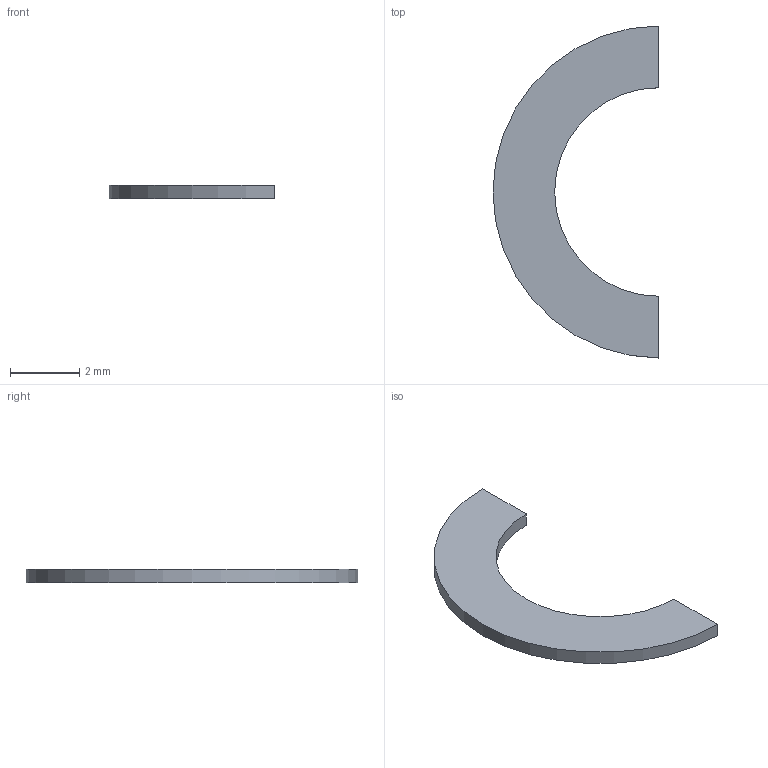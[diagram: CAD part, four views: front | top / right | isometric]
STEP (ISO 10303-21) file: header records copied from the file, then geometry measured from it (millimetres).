
FILE_DESCRIPTION(('Open CASCADE Model'),'2;1');
FILE_NAME('Open CASCADE Shape Model','2026-09-24T17:43:00',('Author'),( 'Open CASCADE'),'Open CASCADE STEP processor 7.8','Open CASCADE 7.8' ,'Unknown');
FILE_SCHEMA(('AUTOMOTIVE_DESIGN { 1 0 10303 214 1 1 1 1 }'));
Length unit declared in the file: millimetre
Products named in the file (1): Open CASCADE STEP translator 7.8 7
Bounding box: 4.8 x 9.6 x 0.4 mm (x, y, z)
Volume: 8.8 mm3; surface area: 55.1 mm2
Topology: 1 solids, 1 shells, 6 faces, 12 edges, 8 vertices
Faces by surface type: plane 4, cylinder 2
Entity records: 322 total; most frequent: CARTESIAN_POINT 55, DIRECTION 50, ORIENTED_EDGE 24, PCURVE 24, DEFINITIONAL_REPRESENTATION 24, LINE 24, VECTOR 24, EDGE_CURVE 12
